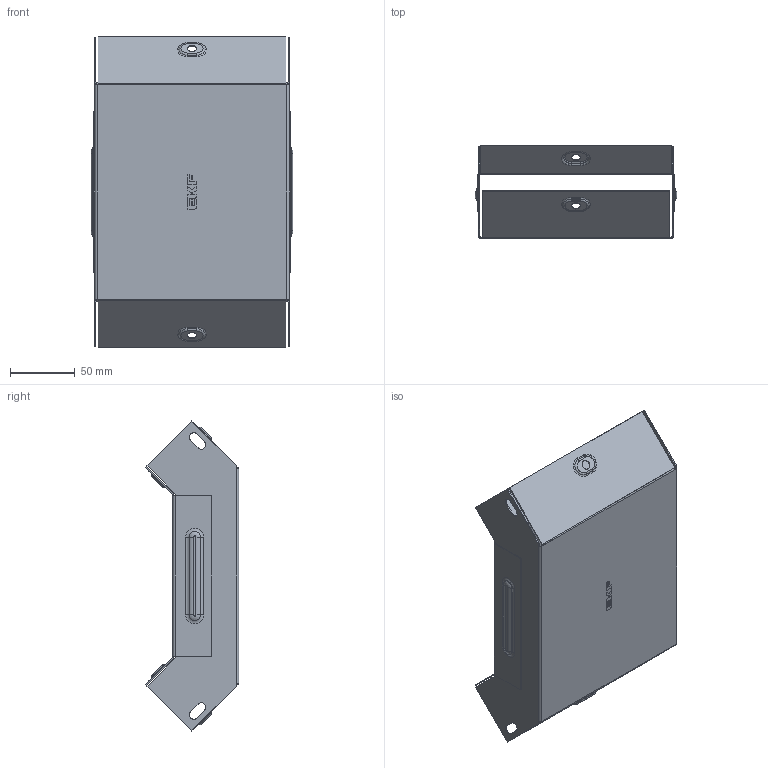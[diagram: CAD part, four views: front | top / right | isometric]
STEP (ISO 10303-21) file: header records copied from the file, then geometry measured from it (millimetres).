
FILE_DESCRIPTION (( 'STEP AP214' ), '1' );
FILE_NAME ('vi9050150_捘.STEP', '2019-06-10T09:17:09', ( '砐錪賧瘔蠈錪 Windows' ), ( '' ), 'SwSTEP 2.0', 'SolidWorks 2018', '' );
FILE_SCHEMA (( 'AUTOMOTIVE_DESIGN' ));
Length unit declared in the file: millimetre
Products named in the file (1): vi9050150_捘
Bounding box: 155.6 x 72.01 x 239.3 mm (x, y, z)
Volume: 77159.5 mm3; surface area: 194741.2 mm2
Topology: 2 solids, 2 shells, 416 faces, 1056 edges, 672 vertices
Faces by surface type: plane 222, cylinder 112, torus 64, bspline 18
Entity records: 13420 total; most frequent: CARTESIAN_POINT 3164, DIRECTION 2138, ORIENTED_EDGE 2112, EDGE_CURVE 1056, AXIS2_PLACEMENT_3D 719, LINE 700, VECTOR 700, VERTEX_POINT 672
